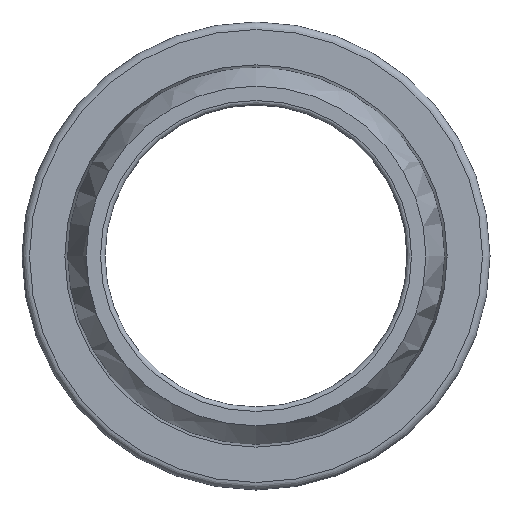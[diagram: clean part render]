
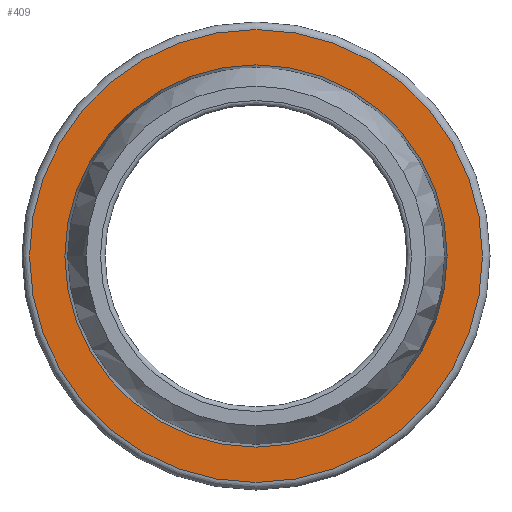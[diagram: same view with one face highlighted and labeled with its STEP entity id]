
A CAD part, left-side view. The second image highlights one B-rep face of the part: STEP entity #409.
In plain terms, the highlighted planar face has unit normal (-1, 0, 0).
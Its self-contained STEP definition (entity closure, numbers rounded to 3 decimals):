
#31=PLANE('',#466);
#74=FACE_BOUND('',#173,.T.);
#116=FACE_OUTER_BOUND('',#172,.T.);
#172=EDGE_LOOP('',(#364));
#173=EDGE_LOOP('',(#365));
#207=CIRCLE('',#465,25.326);
#208=CIRCLE('',#467,30.);
#245=VERTEX_POINT('',#952);
#246=VERTEX_POINT('',#955);
#287=EDGE_CURVE('',#245,#245,#207,.T.);
#288=EDGE_CURVE('',#246,#246,#208,.T.);
#364=ORIENTED_EDGE('',*,*,#288,.F.);
#365=ORIENTED_EDGE('',*,*,#287,.T.);
#409=ADVANCED_FACE('',(#116,#74),#31,.T.);
#465=AXIS2_PLACEMENT_3D('',#953,#575,#576);
#466=AXIS2_PLACEMENT_3D('',#954,#577,#578);
#467=AXIS2_PLACEMENT_3D('',#956,#579,#580);
#575=DIRECTION('center_axis',(1.,0.,0.));
#576=DIRECTION('ref_axis',(0.,0.,-1.));
#577=DIRECTION('center_axis',(-1.,0.,0.));
#578=DIRECTION('ref_axis',(0.,0.,1.));
#579=DIRECTION('center_axis',(1.,0.,0.));
#580=DIRECTION('ref_axis',(0.,0.,-1.));
#952=CARTESIAN_POINT('',(-11.,25.326,0.));
#953=CARTESIAN_POINT('Origin',(-11.,0.,0.));
#954=CARTESIAN_POINT('Origin',(-11.,30.,0.));
#955=CARTESIAN_POINT('',(-11.,30.,0.));
#956=CARTESIAN_POINT('Origin',(-11.,0.,0.));
